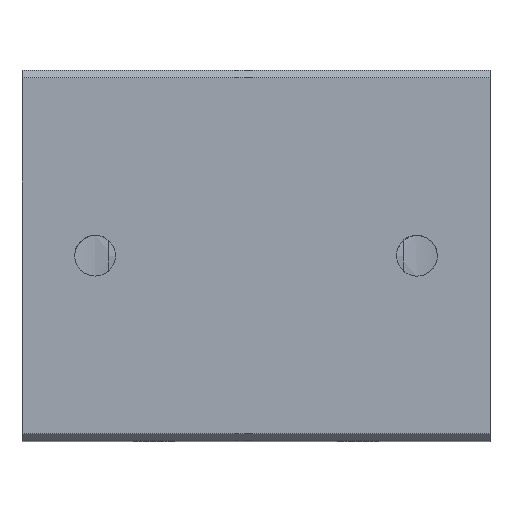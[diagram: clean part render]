
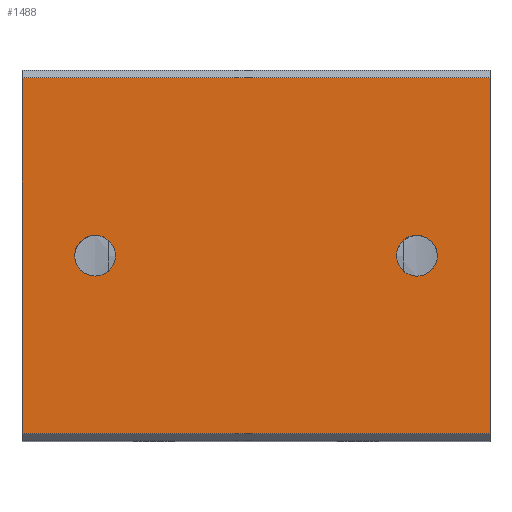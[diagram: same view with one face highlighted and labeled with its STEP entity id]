
A CAD part, top view. The second image highlights one B-rep face of the part: STEP entity #1488.
In plain terms, the highlighted planar face has unit normal (0, 0, 1).
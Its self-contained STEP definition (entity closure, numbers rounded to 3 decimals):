
#1336=CARTESIAN_POINT('',(96.,-36.5,50.));
#1337=VERTEX_POINT('',#1336);
#1344=CARTESIAN_POINT('',(0.0,-36.5,50.));
#1345=VERTEX_POINT('',#1344);
#1346=CARTESIAN_POINT('',(96.,-36.5,50.));
#1347=DIRECTION('',(-1.0,0.0,0.0));
#1348=VECTOR('',#1347,96.);
#1349=LINE('',#1346,#1348);
#1350=EDGE_CURVE('',#1337,#1345,#1349,.T.);
#1375=CARTESIAN_POINT('',(0.0,36.5,50.));
#1376=VERTEX_POINT('',#1375);
#1377=CARTESIAN_POINT('',(0.0,-36.5,50.));
#1378=DIRECTION('',(0.0,1.0,0.0));
#1379=VECTOR('',#1378,73.0);
#1380=LINE('',#1377,#1379);
#1381=EDGE_CURVE('',#1345,#1376,#1380,.T.);
#1443=CARTESIAN_POINT('',(0.0,-38.,50.));
#1444=DIRECTION('',(0.0,0.0,1.0));
#1445=DIRECTION('',(1.0,0.0,0.0));
#1446=AXIS2_PLACEMENT_3D('',#1443,#1444,#1445);
#1447=PLANE('',#1446);
#1448=ORIENTED_EDGE('',*,*,#1350,.F.);
#1449=CARTESIAN_POINT('',(96.,36.5,50.));
#1450=VERTEX_POINT('',#1449);
#1451=CARTESIAN_POINT('',(96.,-36.5,50.));
#1452=DIRECTION('',(0.0,1.0,0.0));
#1453=VECTOR('',#1452,73.0);
#1454=LINE('',#1451,#1453);
#1455=EDGE_CURVE('',#1337,#1450,#1454,.T.);
#1456=ORIENTED_EDGE('',*,*,#1455,.T.);
#1457=CARTESIAN_POINT('',(0.0,36.5,50.));
#1458=DIRECTION('',(1.0,0.0,0.0));
#1459=VECTOR('',#1458,96.);
#1460=LINE('',#1457,#1459);
#1461=EDGE_CURVE('',#1376,#1450,#1460,.T.);
#1462=ORIENTED_EDGE('',*,*,#1461,.F.);
#1463=ORIENTED_EDGE('',*,*,#1381,.F.);
#1464=EDGE_LOOP('',(#1448,#1456,#1462,#1463));
#1465=FACE_OUTER_BOUND('',#1464,.T.);
#1466=CARTESIAN_POINT('',(19.188,0.0,50.0));
#1467=VERTEX_POINT('',#1466);
#1468=CARTESIAN_POINT('',(15.,0.0,50.0));
#1469=DIRECTION('',(0.0,0.0,-1.0));
#1470=DIRECTION('',(1.0,0.0,0.0));
#1471=AXIS2_PLACEMENT_3D('',#1468,#1469,#1470);
#1472=CIRCLE('',#1471,4.188);
#1473=EDGE_CURVE('',#1467,#1467,#1472,.T.);
#1474=ORIENTED_EDGE('',*,*,#1473,.T.);
#1475=EDGE_LOOP('',(#1474));
#1476=FACE_BOUND('',#1475,.T.);
#1477=CARTESIAN_POINT('',(85.188,0.,50.0));
#1478=VERTEX_POINT('',#1477);
#1479=CARTESIAN_POINT('',(81.,0.,50.0));
#1480=DIRECTION('',(0.0,0.0,-1.0));
#1481=DIRECTION('',(1.0,0.0,0.0));
#1482=AXIS2_PLACEMENT_3D('',#1479,#1480,#1481);
#1483=CIRCLE('',#1482,4.188);
#1484=EDGE_CURVE('',#1478,#1478,#1483,.T.);
#1485=ORIENTED_EDGE('',*,*,#1484,.T.);
#1486=EDGE_LOOP('',(#1485));
#1487=FACE_BOUND('',#1486,.T.);
#1488=ADVANCED_FACE('',(#1465,#1476,#1487),#1447,.T.);
